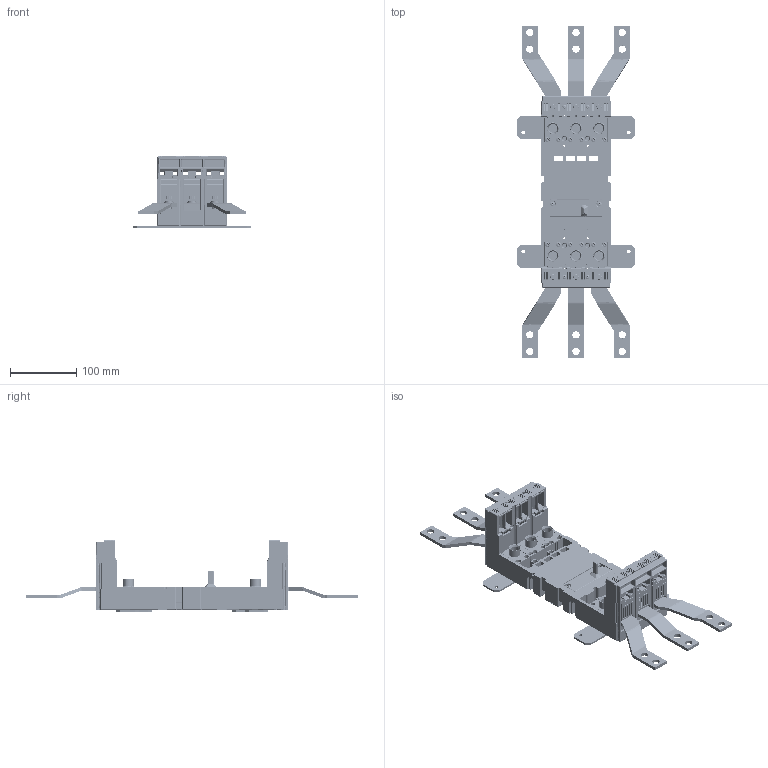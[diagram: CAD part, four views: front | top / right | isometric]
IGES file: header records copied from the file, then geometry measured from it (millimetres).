
Start section: SolidWorks IGES file using analytic representation for surfaces
Global section: file name: U:\14_RD\05_Technical_office\04_Office\Hrdinova\3D modely - IGES\Modeion - BD250\ZO-BD-0250-300__CS-BD-JX75__OD-BHD-MS75.IGS; native system: SolidWorks 2011; preprocessor: SolidWorks 2011; author: adhrja3; date: 170619.085628; units: millimetre
Bounding box: 180 x 503 x 108 mm (x, y, z)
Surface area: 436669.7 mm2 (no closed solid volume)
Topology: 0 solids, 0 shells, 5256 faces, 50002 edges, 49798 vertices
Faces by surface type: bspline 3388, revolution 1868
